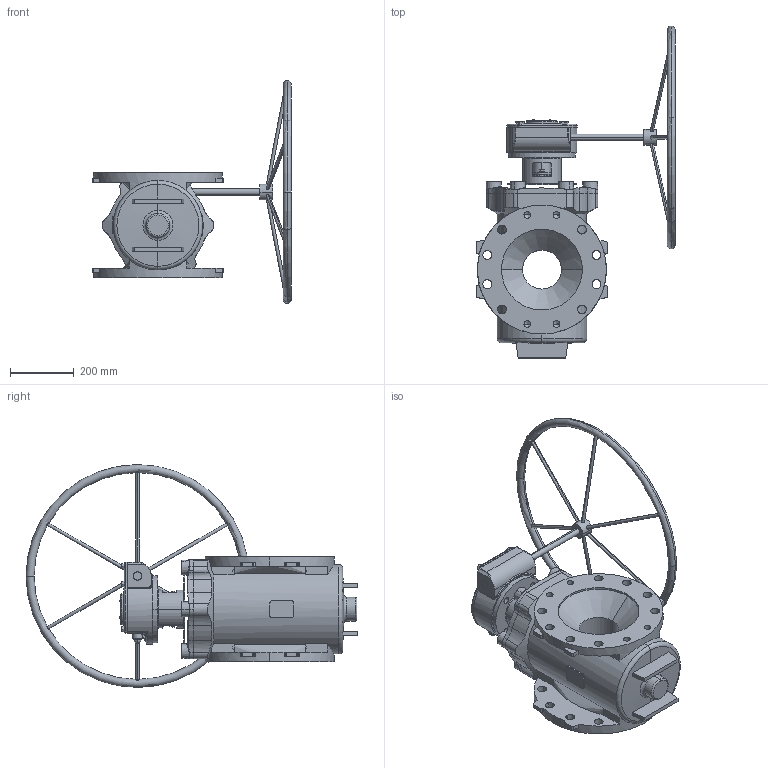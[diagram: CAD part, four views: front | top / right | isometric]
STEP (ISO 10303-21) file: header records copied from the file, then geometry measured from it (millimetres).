
FILE_DESCRIPTION (( 'STEP AP203' ), '1' );
FILE_NAME ('O_764_01_DN250_1XXXXXX020_REV01.step', '2021-02-01T09:31:27', ( '' ), ( '' ), 'SwSTEP 2.0', 'SolidWorks 2019', '' );
FILE_SCHEMA (( 'CONFIG_CONTROL_DESIGN' ));
Length unit declared in the file: millimetre
Products named in the file (1): O_764_01_DN250_1XXXXXX020_REV01
Bounding box: 623.04 x 1042.5 x 700 mm (x, y, z)
Volume: 41097192.2 mm3; surface area: 1607466.9 mm2
Topology: 1 solids, 1 shells, 1028 faces, 2647 edges, 1601 vertices
Faces by surface type: cylinder 351, plane 333, cone 132, bspline 127, torus 77, sphere 8
Entity records: 40977 total; most frequent: CARTESIAN_POINT 17345, ORIENTED_EDGE 5144, DIRECTION 4729, EDGE_CURVE 2572, AXIS2_PLACEMENT_3D 1899, VERTEX_POINT 1596, EDGE_LOOP 1140, FACE_OUTER_BOUND 1028
